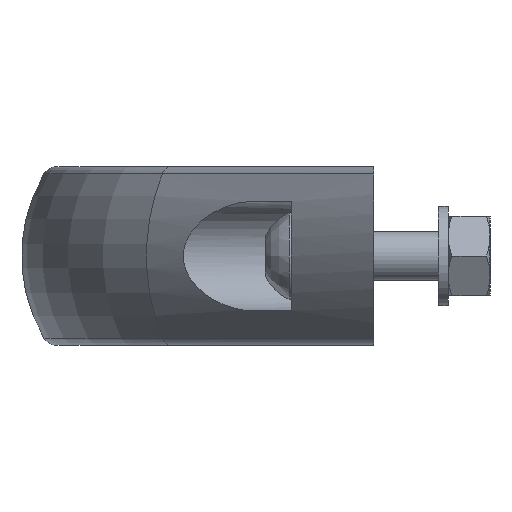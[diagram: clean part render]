
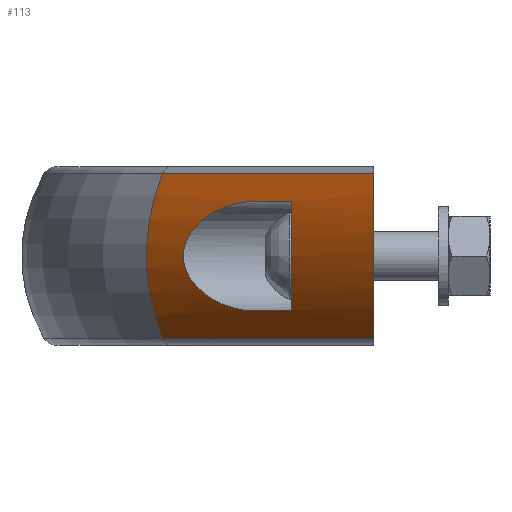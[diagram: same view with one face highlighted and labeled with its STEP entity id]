
A CAD part, left-side view. The second image highlights one B-rep face of the part: STEP entity #113.
In plain terms, the highlighted cylindrical face has radius 32.5 mm (diameter 65 mm), a partial arc.
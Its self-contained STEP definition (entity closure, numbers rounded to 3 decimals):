
#113 = ADVANCED_FACE( '', ( #289, #290 ), #291, .T. );
#289 = FACE_OUTER_BOUND( '', #607, .T. );
#290 = FACE_BOUND( '', #608, .T. );
#291 = CYLINDRICAL_SURFACE( '', #609, 32.5 );
#607 = EDGE_LOOP( '', ( #1100, #1101, #1102, #1103 ) );
#608 = EDGE_LOOP( '', ( #1104, #1105, #1106, #1107 ) );
#609 = AXIS2_PLACEMENT_3D( '', #1108, #1109, #1110 );
#1100 = ORIENTED_EDGE( '', *, *, #1810, .F. );
#1101 = ORIENTED_EDGE( '', *, *, #1811, .T. );
#1102 = ORIENTED_EDGE( '', *, *, #1812, .F. );
#1103 = ORIENTED_EDGE( '', *, *, #1807, .F. );
#1104 = ORIENTED_EDGE( '', *, *, #1813, .F. );
#1105 = ORIENTED_EDGE( '', *, *, #1814, .F. );
#1106 = ORIENTED_EDGE( '', *, *, #1815, .F. );
#1107 = ORIENTED_EDGE( '', *, *, #1816, .F. );
#1108 = CARTESIAN_POINT( '', ( -161.623, -30.203, 0. ) );
#1109 = DIRECTION( '', ( -0.707, -0.707, 0. ) );
#1110 = DIRECTION( '', ( -0.707, 0.707, 0. ) );
#1807 = EDGE_CURVE( '', #2139, #2142, #2143, .T. );
#1810 = EDGE_CURVE( '', #2147, #2139, #2148, .T. );
#1811 = EDGE_CURVE( '', #2147, #2149, #2150, .T. );
#1812 = EDGE_CURVE( '', #2142, #2149, #2151, .T. );
#1813 = EDGE_CURVE( '', #2152, #2153, #2154, .F. );
#1814 = EDGE_CURVE( '', #2155, #2152, #2156, .T. );
#1815 = EDGE_CURVE( '', #2157, #2155, #2158, .T. );
#1816 = EDGE_CURVE( '', #2153, #2157, #2159, .T. );
#2139 = VERTEX_POINT( '', #2860 );
#2142 = VERTEX_POINT( '', #2863 );
#2143 = LINE( '', #2864, #2865 );
#2147 = VERTEX_POINT( '', #2870 );
#2148 = ELLIPSE( '', #2871, 45.962, 32.5 );
#2149 = VERTEX_POINT( '', #2872 );
#2150 = LINE( '', #2873, #2874 );
#2151 = CIRCLE( '', #2875, 32.5 );
#2152 = VERTEX_POINT( '', #2876 );
#2153 = VERTEX_POINT( '', #2877 );
#2154 = LINE( '', #2878, #2879 );
#2155 = VERTEX_POINT( '', #2880 );
#2156 = B_SPLINE_CURVE_WITH_KNOTS( '', 3, ( #2881, #2882, #2883, #2884, #2885, #2886, #2887, #2888, #2889, #2890, #2891, #2892, #2893, #2894, #2895, #2896, #2897, #2898, #2899, #2900, #2901, #2902, #2903, #2904, #2905, #2906, #2907, #2908, #2909, #2910, #2911, #2912, #2913, #2914, #2915, #2916, #2917, #2918, #2919, #2920, #2921, #2922, #2923, #2924, #2925, #2926, #2927, #2928, #2929, #2930, #2931, #2932, #2933, #2934 ), .UNSPECIFIED., .F., .F., ( 4, 2, 2, 2, 2, 2, 2, 2, 2, 2, 2, 2, 2, 2, 2, 2, 2, 2, 2, 2, 2, 2, 2, 2, 2, 2, 4 ), ( 0.017, 0.019, 0.022, 0.025, 0.028, 0.031, 0.032, 0.034, 0.034, 0.035, 0.036, 0.037, 0.038, 0.039, 0.04, 0.041, 0.041, 0.042, 0.043, 0.045, 0.048, 0.05, 0.053, 0.056, 0.057, 0.059, 0.062 ), .UNSPECIFIED. );
#2157 = VERTEX_POINT( '', #2935 );
#2158 = LINE( '', #2936, #2937 );
#2159 = ELLIPSE( '', #2938, 45.962, 32.5 );
#2860 = CARTESIAN_POINT( '', ( -170.997, 0., -16.525 ) );
#2863 = CARTESIAN_POINT( '', ( -128.379, 42.619, -16.525 ) );
#2864 = CARTESIAN_POINT( '', ( -181.412, -10.414, -16.525 ) );
#2865 = VECTOR( '', #3380, 1000. );
#2870 = CARTESIAN_POINT( '', ( -170.997, 0., 16.525 ) );
#2871 = AXIS2_PLACEMENT_3D( '', #3385, #3386, #3387 );
#2872 = CARTESIAN_POINT( '', ( -128.379, 42.619, 16.525 ) );
#2873 = CARTESIAN_POINT( '', ( -181.412, -10.414, 16.525 ) );
#2874 = VECTOR( '', #3388, 1000. );
#2875 = AXIS2_PLACEMENT_3D( '', #3389, #3390, #3391 );
#2876 = CARTESIAN_POINT( '', ( -150., 24.67, -11. ) );
#2877 = CARTESIAN_POINT( '', ( -158.07, 16.6, -11. ) );
#2878 = CARTESIAN_POINT( '', ( -183.248, -8.578, -11. ) );
#2879 = VECTOR( '', #3392, 1000. );
#2880 = CARTESIAN_POINT( '', ( -150., 24.67, 11. ) );
#2881 = CARTESIAN_POINT( '', ( -150., 24.67, 11. ) );
#2882 = CARTESIAN_POINT( '', ( -149.332, 25.337, 11. ) );
#2883 = CARTESIAN_POINT( '', ( -148.687, 26.014, 10.94 ) );
#2884 = CARTESIAN_POINT( '', ( -147.433, 27.38, 10.715 ) );
#2885 = CARTESIAN_POINT( '', ( -146.825, 28.069, 10.551 ) );
#2886 = CARTESIAN_POINT( '', ( -145.641, 29.458, 10.119 ) );
#2887 = CARTESIAN_POINT( '', ( -145.062, 30.161, 9.85 ) );
#2888 = CARTESIAN_POINT( '', ( -143.959, 31.54, 9.215 ) );
#2889 = CARTESIAN_POINT( '', ( -143.433, 32.218, 8.849 ) );
#2890 = CARTESIAN_POINT( '', ( -142.429, 33.54, 8.007 ) );
#2891 = CARTESIAN_POINT( '', ( -141.952, 34.185, 7.532 ) );
#2892 = CARTESIAN_POINT( '', ( -141.278, 35.115, 6.712 ) );
#2893 = CARTESIAN_POINT( '', ( -141.059, 35.42, 6.419 ) );
#2894 = CARTESIAN_POINT( '', ( -140.644, 36.004, 5.796 ) );
#2895 = CARTESIAN_POINT( '', ( -140.447, 36.283, 5.468 ) );
#2896 = CARTESIAN_POINT( '', ( -140.172, 36.675, 4.945 ) );
#2897 = CARTESIAN_POINT( '', ( -140.084, 36.802, 4.766 ) );
#2898 = CARTESIAN_POINT( '', ( -139.914, 37.046, 4.396 ) );
#2899 = CARTESIAN_POINT( '', ( -139.833, 37.164, 4.204 ) );
#2900 = CARTESIAN_POINT( '', ( -139.603, 37.497, 3.618 ) );
#2901 = CARTESIAN_POINT( '', ( -139.47, 37.692, 3.211 ) );
#2902 = CARTESIAN_POINT( '', ( -139.303, 37.937, 2.572 ) );
#2903 = CARTESIAN_POINT( '', ( -139.253, 38.01, 2.354 ) );
#2904 = CARTESIAN_POINT( '', ( -139.164, 38.14, 1.909 ) );
#2905 = CARTESIAN_POINT( '', ( -139.126, 38.196, 1.679 ) );
#2906 = CARTESIAN_POINT( '', ( -139.034, 38.332, 0.981 ) );
#2907 = CARTESIAN_POINT( '', ( -139.002, 38.38, 0.512 ) );
#2908 = CARTESIAN_POINT( '', ( -138.999, 38.383, -0.2 ) );
#2909 = CARTESIAN_POINT( '', ( -139.006, 38.373, -0.439 ) );
#2910 = CARTESIAN_POINT( '', ( -139.035, 38.33, -0.914 ) );
#2911 = CARTESIAN_POINT( '', ( -139.058, 38.297, -1.148 ) );
#2912 = CARTESIAN_POINT( '', ( -139.116, 38.211, -1.61 ) );
#2913 = CARTESIAN_POINT( '', ( -139.152, 38.158, -1.838 ) );
#2914 = CARTESIAN_POINT( '', ( -139.238, 38.031, -2.288 ) );
#2915 = CARTESIAN_POINT( '', ( -139.288, 37.958, -2.51 ) );
#2916 = CARTESIAN_POINT( '', ( -139.455, 37.714, -3.162 ) );
#2917 = CARTESIAN_POINT( '', ( -139.588, 37.519, -3.572 ) );
#2918 = CARTESIAN_POINT( '', ( -139.889, 37.082, -4.353 ) );
#2919 = CARTESIAN_POINT( '', ( -140.058, 36.839, -4.724 ) );
#2920 = CARTESIAN_POINT( '', ( -140.609, 36.051, -5.783 ) );
#2921 = CARTESIAN_POINT( '', ( -141.022, 35.468, -6.396 ) );
#2922 = CARTESIAN_POINT( '', ( -141.919, 34.23, -7.497 ) );
#2923 = CARTESIAN_POINT( '', ( -142.407, 33.57, -7.987 ) );
#2924 = CARTESIAN_POINT( '', ( -143.422, 32.231, -8.841 ) );
#2925 = CARTESIAN_POINT( '', ( -143.951, 31.55, -9.209 ) );
#2926 = CARTESIAN_POINT( '', ( -145.052, 30.173, -9.845 ) );
#2927 = CARTESIAN_POINT( '', ( -145.624, 29.478, -10.112 ) );
#2928 = CARTESIAN_POINT( '', ( -146.52, 28.427, -10.44 ) );
#2929 = CARTESIAN_POINT( '', ( -146.824, 28.076, -10.536 ) );
#2930 = CARTESIAN_POINT( '', ( -147.439, 27.38, -10.702 ) );
#2931 = CARTESIAN_POINT( '', ( -147.749, 27.035, -10.772 ) );
#2932 = CARTESIAN_POINT( '', ( -148.693, 26.007, -10.941 ) );
#2933 = CARTESIAN_POINT( '', ( -149.338, 25.332, -11. ) );
#2934 = CARTESIAN_POINT( '', ( -150., 24.67, -11. ) );
#2935 = CARTESIAN_POINT( '', ( -158.07, 16.6, 11. ) );
#2936 = CARTESIAN_POINT( '', ( -183.248, -8.578, 11. ) );
#2937 = VECTOR( '', #3393, 1000. );
#2938 = AXIS2_PLACEMENT_3D( '', #3394, #3395, #3396 );
#3380 = DIRECTION( '', ( 0.707, 0.707, 0. ) );
#3385 = CARTESIAN_POINT( '', ( -131.42, 0., 0. ) );
#3386 = DIRECTION( '', ( 0., -1., 0. ) );
#3387 = DIRECTION( '', ( 1., 0., 0. ) );
#3388 = DIRECTION( '', ( 0.707, 0.707, 0. ) );
#3389 = CARTESIAN_POINT( '', ( -108.59, 22.83, 0. ) );
#3390 = DIRECTION( '', ( 0.707, 0.707, 0. ) );
#3391 = DIRECTION( '', ( 0., 0., -1. ) );
#3392 = DIRECTION( '', ( 0.707, 0.707, 0. ) );
#3393 = DIRECTION( '', ( 0.707, 0.707, 0. ) );
#3394 = CARTESIAN_POINT( '', ( -114.82, 16.6, 0. ) );
#3395 = DIRECTION( '', ( 0., 1., 0. ) );
#3396 = DIRECTION( '', ( 1., 0., 0. ) );
